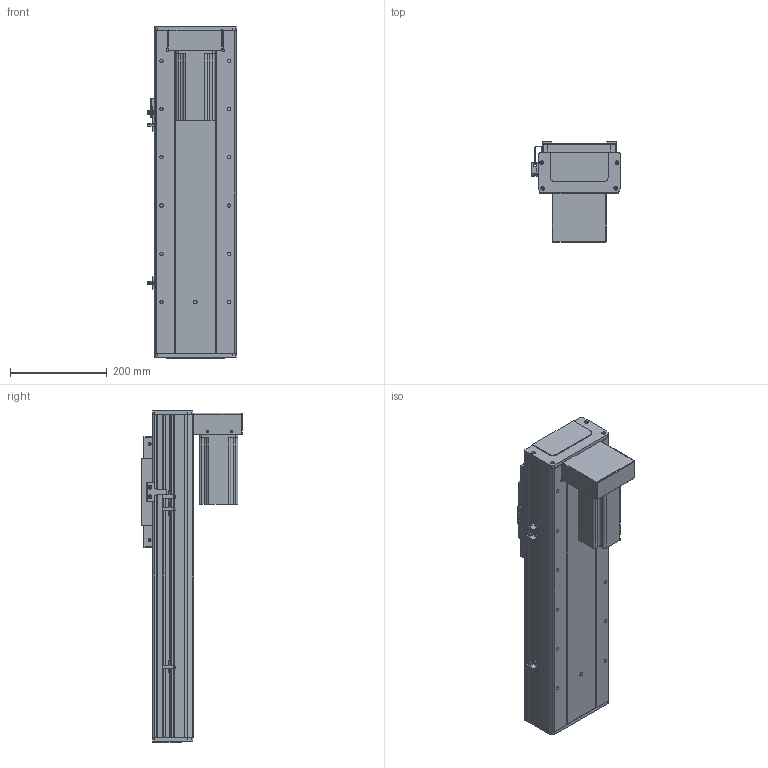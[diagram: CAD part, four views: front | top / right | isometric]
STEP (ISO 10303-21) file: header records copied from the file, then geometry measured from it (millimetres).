
FILE_DESCRIPTION (( 'STEP AP203' ), '1' );
FILE_NAME ('RY170F-L2010-300-BK.SLDASM_350.step', '2021-03-02T08:55:42', ( '盈信电脑' ), ( '东莞市道滘镇水果街19号' ), 'SwSTEP 2.0', 'SolidWorks 2012', '' );
FILE_SCHEMA (( 'CONFIG_CONTROL_DESIGN' ));
Length unit declared in the file: millimetre
Products named in the file (20): RY170F-L2010-300-BK.SLDASM_350; RY170狟殏詩湍假蚾輸; RY170F狟殏萇儂欶; 怢湛750W萇儂ㄗ80遺ㄘ; RY170F-狟殏萇儂假蚾啣(750W); 滅袉蝶18-24; RY170F-詩湍揤踡輸; 侐源滅袉蝶; RY170F-揤踡謫假蚾粣; RY170F-綴裔啣; RY100F-詩湍揤踡謫; RY170F俋离覜茼え; 覜茼ん672; RY170F-300眻蟀倰第菁釱-BK_350; RY170F-丝杆铝滑块连接板; RY170F-佪裝臏賑輸20蹟譫; 滅袉蝶18-10; RY170F-滅鳥奻裔; RY170F-300眻蟀倰第奻裔啣-BK_350; RY170F-300眻蟀祥凄詩湍-MK_350
Assembly tree (25 placements, depth 2):
  RY170F-L2010-300-BK.SLDASM_350
    RY170F-300眻蟀祥凄詩湍-MK_350
    RY170F-300眻蟀倰第奻裔啣-BK_350  x2
    RY170F-滅鳥奻裔
    RY170F-300眻蟀倰第菁釱-BK_350
    RY170F-佪裝臏賑輸20蹟譫
    RY170F-丝杆铝滑块连接板
    滅袉蝶18-10
    RY100F-詩湍揤踡謫
    RY170F-綴裔啣  x2
    覜茼ん672  x3
    RY170F俋离覜茼え
    RY170F-揤踡謫假蚾粣
    RY170F-詩湍揤踡輸  x2
    滅袉蝶18-24
    侐源滅袉蝶  x2
    RY170F-狟殏萇儂假蚾啣(750W)
    怢湛750W萇儂ㄗ80遺ㄘ
    RY170F狟殏萇儂欶
    RY170狟殏詩湍假蚾輸
Bounding box: 183.7 x 208 x 688 mm (x, y, z)
Volume: 4859140.7 mm3; surface area: 1504304.9 mm2
Topology: 25 solids, 25 shells, 1786 faces, 4949 edges, 3156 vertices
Faces by surface type: cylinder 840, plane 762, cone 180, bspline 4
Entity records: 49856 total; most frequent: CARTESIAN_POINT 10008, DIRECTION 8042, ORIENTED_EDGE 7694, EDGE_CURVE 3847, AXIS2_PLACEMENT_3D 2886, VERTEX_POINT 2512, VECTOR 2270, LINE 2270
